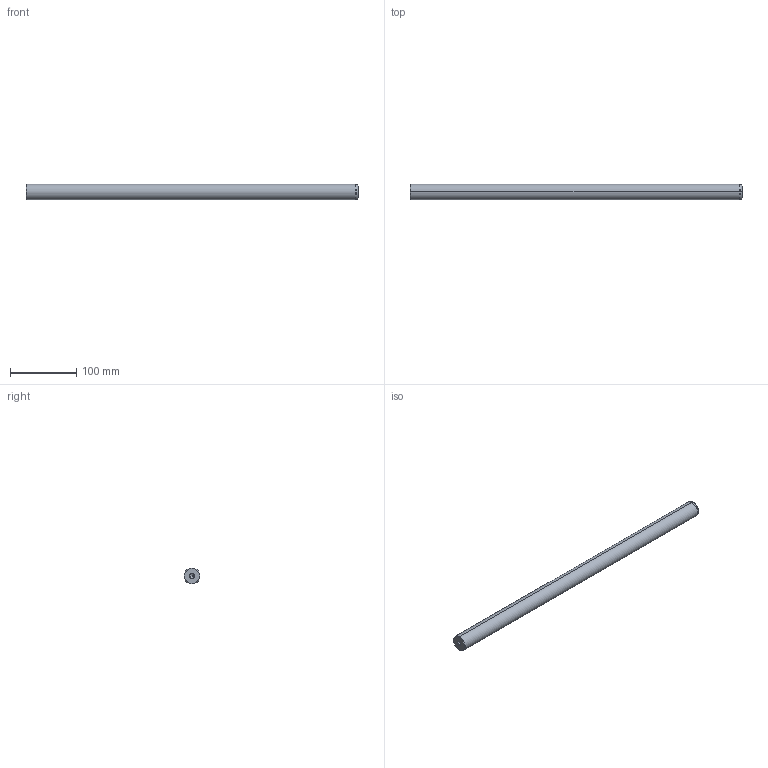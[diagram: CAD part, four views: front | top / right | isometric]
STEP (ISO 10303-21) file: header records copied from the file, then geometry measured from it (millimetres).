
FILE_DESCRIPTION(('CATIA V5 STEP Exchange'),'2;1');
FILE_NAME('C:\Users\Utente\Desktop\IO LAVORO\3D X SITO CF\X SITO\720\720-24x500.stp','2021-01-01T12:45:28+00:00',('none'),('none'),'CATIA Version 5 Release 20 GA (IN-10)','CATIA V5 STEP AP203','none');
FILE_SCHEMA(('CONFIG_CONTROL_DESIGN'));
Length unit declared in the file: millimetre
Products named in the file (1): 720-24x500
Bounding box: 500 x 24 x 24 mm (x, y, z)
Volume: 224228.8 mm3; surface area: 39439.2 mm2
Topology: 1 solids, 1 shells, 22 faces, 62 edges, 40 vertices
Faces by surface type: cone 12, cylinder 6, plane 2, torus 2
Entity records: 806 total; most frequent: CARTESIAN_POINT 229, ORIENTED_EDGE 116, DIRECTION 93, EDGE_CURVE 58, AXIS2_PLACEMENT_3D 54, VERTEX_POINT 40, CIRCLE 31, EDGE_LOOP 24
